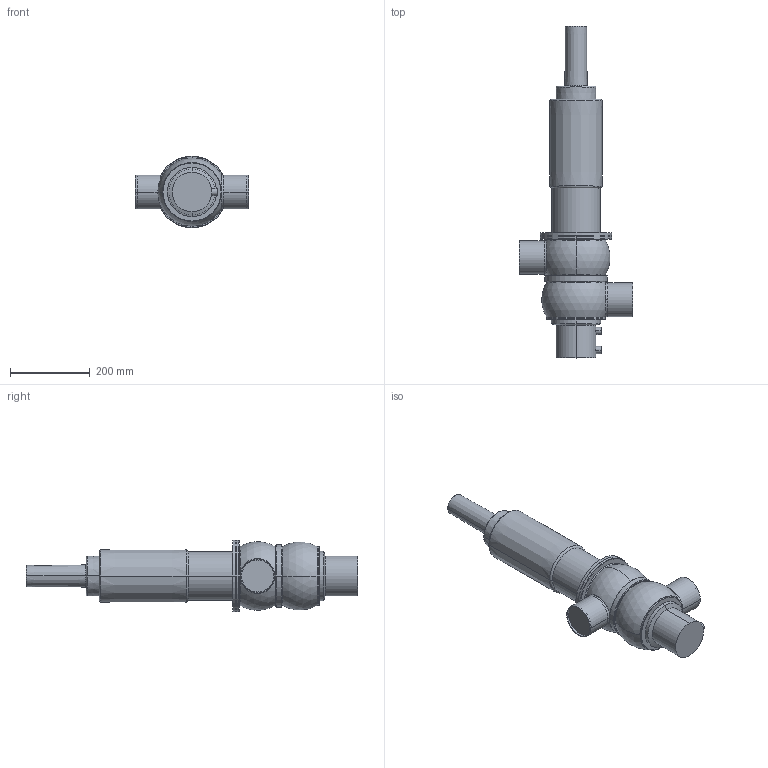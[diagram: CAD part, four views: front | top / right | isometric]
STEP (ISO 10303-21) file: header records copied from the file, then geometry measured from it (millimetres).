
FILE_DESCRIPTION(('Creo Elements/Direct Modeling STEP Export'),'2;1');
FILE_NAME('D41(1-7)-80.stp','2020-02-07T14:31:02',(''),(''),'Creo Elements/Direct Modeling STEP processor for AP214 (Solid Model)','Creo Elements/Direct Modeling 19.0F 14-Feb-2017 (C) Parametric Technology GmbH','');
FILE_SCHEMA(('AUTOMOTIVE_DESIGN { 1 0 10303 214 1 1 1 1 }'));
Length unit declared in the file: millimetre
Products named in the file (5): D4_Prox._holder.; actuator_D4-125_yoke; drain_pipe_92; housing_D41(1-7)-80; D41(1-7)-80_prox
Assembly tree (4 placements, depth 2):
  D41(1-7)-80_prox
    housing_D41(1-7)-80
    drain_pipe_92
    actuator_D4-125_yoke
    D4_Prox._holder.
Bounding box: 285 x 835 x 180 mm (x, y, z)
Volume: 11094862.5 mm3; surface area: 512619 mm2
Topology: 4 solids, 4 shells, 115 faces, 239 edges, 145 vertices
Faces by surface type: cylinder 40, torus 32, plane 24, cone 14, sphere 5
Entity records: 3700 total; most frequent: CARTESIAN_POINT 1299, DIRECTION 490, ORIENTED_EDGE 474, EDGE_CURVE 237, AXIS2_PLACEMENT_3D 218, VERTEX_POINT 145, EDGE_LOOP 130, FACE_OUTER_BOUND 115
